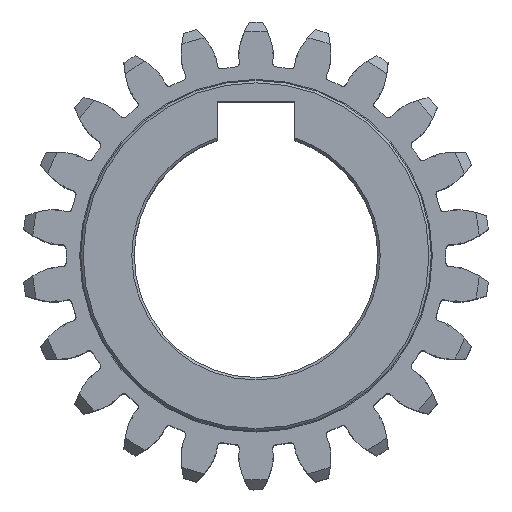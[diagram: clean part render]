
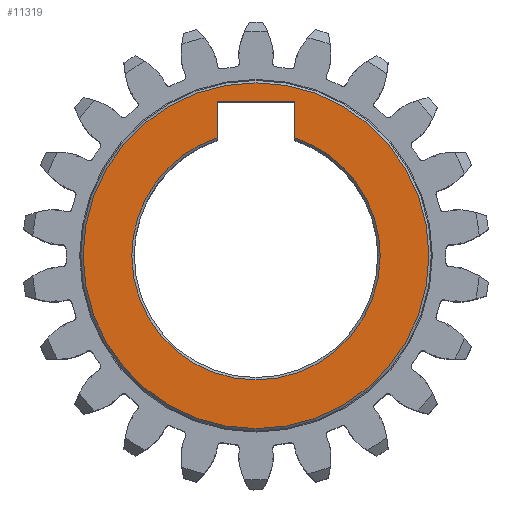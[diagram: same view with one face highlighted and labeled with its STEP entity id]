
A CAD part, top view. The second image highlights one B-rep face of the part: STEP entity #11319.
In plain terms, the highlighted planar face has unit normal (0, 0, 1).
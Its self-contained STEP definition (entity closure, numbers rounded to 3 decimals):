
#158 = ORIENTED_EDGE ( 'NONE', *, *, #12346, .T. ) ;
#189 = VERTEX_POINT ( 'NONE', #9571 ) ;
#1128 = DIRECTION ( 'NONE',  ( 0., 0., -1. ) ) ;
#1450 = VERTEX_POINT ( 'NONE', #4606 ) ;
#1810 = DIRECTION ( 'NONE',  ( 1., 0., 0. ) ) ;
#2105 = CARTESIAN_POINT ( 'NONE',  ( -4., 12.106, 15. ) ) ;
#2760 = EDGE_CURVE ( 'NONE', #4096, #6784, #8633, .T. ) ;
#2798 = AXIS2_PLACEMENT_3D ( 'NONE', #12758, #7427, #7495 ) ;
#3004 = CARTESIAN_POINT ( 'NONE',  ( -4., 15.8, 15. ) ) ;
#3277 = VERTEX_POINT ( 'NONE', #12078 ) ;
#4025 = VERTEX_POINT ( 'NONE', #3004 ) ;
#4086 = ORIENTED_EDGE ( 'NONE', *, *, #11844, .T. ) ;
#4096 = VERTEX_POINT ( 'NONE', #4446 ) ;
#4446 = CARTESIAN_POINT ( 'NONE',  ( -12.75, 0., 15. ) ) ;
#4460 = DIRECTION ( 'NONE',  ( 0., 0., -1. ) ) ;
#4482 = VECTOR ( 'NONE', #13314, 1000. ) ;
#4508 = CARTESIAN_POINT ( 'NONE',  ( 4., 15.8, 15. ) ) ;
#4550 = CARTESIAN_POINT ( 'NONE',  ( 0., 0., 15. ) ) ;
#4606 = CARTESIAN_POINT ( 'NONE',  ( 12.75, 0., 15. ) ) ;
#4893 = LINE ( 'NONE', #13588, #5791 ) ;
#4987 = PLANE ( 'NONE',  #7550 ) ;
#4990 = EDGE_CURVE ( 'NONE', #5617, #3277, #11390, .T. ) ;
#5123 = FACE_BOUND ( 'NONE', #5131, .T. ) ;
#5131 = EDGE_LOOP ( 'NONE', ( #7583, #158, #4086, #6710, #8195, #9779 ) ) ;
#5191 = CARTESIAN_POINT ( 'NONE',  ( 0., 0., 15. ) ) ;
#5212 = CARTESIAN_POINT ( 'NONE',  ( 0., 0., 15. ) ) ;
#5526 = DIRECTION ( 'NONE',  ( 1., 0., 0. ) ) ;
#5617 = VERTEX_POINT ( 'NONE', #6674 ) ;
#5731 = DIRECTION ( 'NONE',  ( 1., 0., 0. ) ) ;
#5791 = VECTOR ( 'NONE', #7092, 1000. ) ;
#5923 = EDGE_CURVE ( 'NONE', #189, #11132, #4893, .T. ) ;
#6169 = LINE ( 'NONE', #4508, #9531 ) ;
#6674 = CARTESIAN_POINT ( 'NONE',  ( 17.75, 0., 15. ) ) ;
#6710 = ORIENTED_EDGE ( 'NONE', *, *, #2760, .T. ) ;
#6714 = CARTESIAN_POINT ( 'NONE',  ( 4., 12.106, 15. ) ) ;
#6784 = VERTEX_POINT ( 'NONE', #2105 ) ;
#7092 = DIRECTION ( 'NONE',  ( 0., -1., 0. ) ) ;
#7105 = CIRCLE ( 'NONE', #11744, 12.75 ) ;
#7427 = DIRECTION ( 'NONE',  ( 0., 0., 1. ) ) ;
#7495 = DIRECTION ( 'NONE',  ( 1., 0., 0. ) ) ;
#7509 = DIRECTION ( 'NONE',  ( 0., 0., 1. ) ) ;
#7550 = AXIS2_PLACEMENT_3D ( 'NONE', #5191, #7509, #1810 ) ;
#7583 = ORIENTED_EDGE ( 'NONE', *, *, #5923, .T. ) ;
#7644 = DIRECTION ( 'NONE',  ( 1., 0., 0. ) ) ;
#7755 = AXIS2_PLACEMENT_3D ( 'NONE', #11815, #10978, #5731 ) ;
#7759 = DIRECTION ( 'NONE',  ( 1., 0., 0. ) ) ;
#7845 = LINE ( 'NONE', #9993, #4482 ) ;
#8195 = ORIENTED_EDGE ( 'NONE', *, *, #10842, .T. ) ;
#8633 = CIRCLE ( 'NONE', #9946, 12.75 ) ;
#9531 = VECTOR ( 'NONE', #5526, 1000. ) ;
#9548 = AXIS2_PLACEMENT_3D ( 'NONE', #9902, #4460, #7759 ) ;
#9571 = CARTESIAN_POINT ( 'NONE',  ( 4., 15.8, 15. ) ) ;
#9779 = ORIENTED_EDGE ( 'NONE', *, *, #12696, .T. ) ;
#9902 = CARTESIAN_POINT ( 'NONE',  ( 0., 0., 15. ) ) ;
#9946 = AXIS2_PLACEMENT_3D ( 'NONE', #5212, #1128, #12804 ) ;
#9993 = CARTESIAN_POINT ( 'NONE',  ( -4., 9.2, 15. ) ) ;
#10223 = EDGE_CURVE ( 'NONE', #3277, #5617, #12192, .T. ) ;
#10724 = ORIENTED_EDGE ( 'NONE', *, *, #10223, .T. ) ;
#10842 = EDGE_CURVE ( 'NONE', #6784, #4025, #7845, .T. ) ;
#10978 = DIRECTION ( 'NONE',  ( 0., 0., 1. ) ) ;
#11132 = VERTEX_POINT ( 'NONE', #6714 ) ;
#11319 = ADVANCED_FACE ( 'NONE', ( #12310, #5123 ), #4987, .T. ) ;
#11351 = ORIENTED_EDGE ( 'NONE', *, *, #4990, .T. ) ;
#11390 = CIRCLE ( 'NONE', #2798, 17.75 ) ;
#11744 = AXIS2_PLACEMENT_3D ( 'NONE', #4550, #12971, #7644 ) ;
#11815 = CARTESIAN_POINT ( 'NONE',  ( 0., 0., 15. ) ) ;
#11844 = EDGE_CURVE ( 'NONE', #1450, #4096, #12218, .T. ) ;
#12078 = CARTESIAN_POINT ( 'NONE',  ( -17.75, 0., 15. ) ) ;
#12192 = CIRCLE ( 'NONE', #7755, 17.75 ) ;
#12218 = CIRCLE ( 'NONE', #9548, 12.75 ) ;
#12310 = FACE_OUTER_BOUND ( 'NONE', #12721, .T. ) ;
#12346 = EDGE_CURVE ( 'NONE', #11132, #1450, #7105, .T. ) ;
#12696 = EDGE_CURVE ( 'NONE', #4025, #189, #6169, .T. ) ;
#12721 = EDGE_LOOP ( 'NONE', ( #10724, #11351 ) ) ;
#12758 = CARTESIAN_POINT ( 'NONE',  ( 0., 0., 15. ) ) ;
#12804 = DIRECTION ( 'NONE',  ( 1., 0., 0. ) ) ;
#12971 = DIRECTION ( 'NONE',  ( 0., 0., -1. ) ) ;
#13314 = DIRECTION ( 'NONE',  ( 0., 1., 0. ) ) ;
#13588 = CARTESIAN_POINT ( 'NONE',  ( 4., 9.2, 15. ) ) ;
